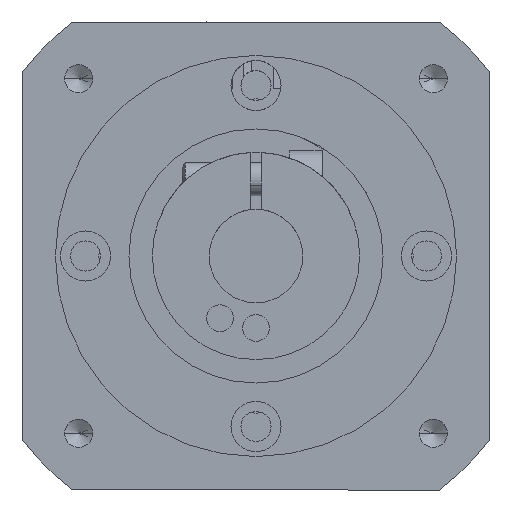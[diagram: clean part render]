
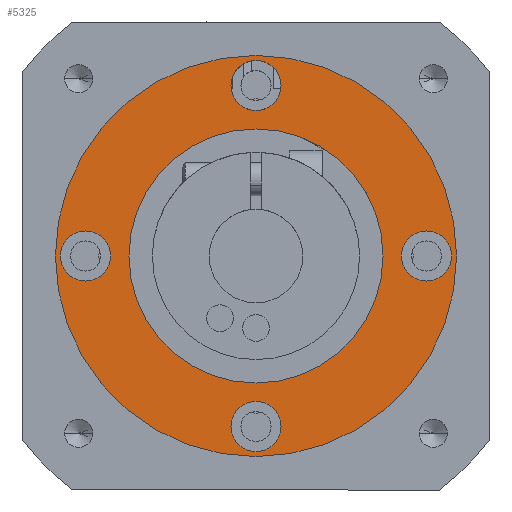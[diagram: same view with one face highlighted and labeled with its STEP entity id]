
A CAD part, front view. The second image highlights one B-rep face of the part: STEP entity #5325.
In plain terms, the highlighted planar face has unit normal (0, -1, 0) as drawn and (0, 0, -1) by its records, which use the part's own axes.
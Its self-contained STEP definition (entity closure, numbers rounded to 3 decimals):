
#7 = EDGE_CURVE ( 'NONE', #29212, #10595, #6347, .T. ) ;
#340 = DIRECTION ( 'NONE',  ( -1., 0., 0. ) ) ;
#444 = VERTEX_POINT ( 'NONE', #10173 ) ;
#850 = EDGE_CURVE ( 'NONE', #9589, #14011, #1555, .T. ) ;
#924 = AXIS2_PLACEMENT_3D ( 'NONE', #30408, #15483, #340 ) ;
#928 = EDGE_LOOP ( 'NONE', ( #10557, #10378 ) ) ;
#1555 = CIRCLE ( 'NONE', #31067, 3.75 ) ;
#1786 = DIRECTION ( 'NONE',  ( -1., 0., 0. ) ) ;
#2060 = DIRECTION ( 'NONE',  ( -1., 0., 0. ) ) ;
#2177 = EDGE_CURVE ( 'NONE', #20895, #21511, #25811, .T. ) ;
#2274 = DIRECTION ( 'NONE',  ( 0., 0., -1. ) ) ;
#2590 = CARTESIAN_POINT ( 'NONE',  ( 0., -19., -17.5 ) ) ;
#2704 = PLANE ( 'NONE',  #23619 ) ;
#3171 = DIRECTION ( 'NONE',  ( -1., 0., 0. ) ) ;
#3182 = DIRECTION ( 'NONE',  ( 0., 0., 1. ) ) ;
#3208 = CARTESIAN_POINT ( 'NONE',  ( 0., -25.5, -17.5 ) ) ;
#3232 = ORIENTED_EDGE ( 'NONE', *, *, #2177, .T. ) ;
#3658 = CARTESIAN_POINT ( 'NONE',  ( 0., 0., -17.5 ) ) ;
#4576 = ORIENTED_EDGE ( 'NONE', *, *, #22175, .T. ) ;
#4933 = DIRECTION ( 'NONE',  ( -1., 0., 0. ) ) ;
#4993 = DIRECTION ( 'NONE',  ( 0., 0., 1. ) ) ;
#5093 = CARTESIAN_POINT ( 'NONE',  ( 25.5, 0., -17.5 ) ) ;
#5325 = ADVANCED_FACE ( 'NONE', ( #8975, #22287, #28084, #21519, #14861, #8167 ), #2704, .T. ) ;
#5997 = DIRECTION ( 'NONE',  ( 0., 0., -1. ) ) ;
#6062 = EDGE_CURVE ( 'NONE', #10997, #14973, #19909, .T. ) ;
#6112 = AXIS2_PLACEMENT_3D ( 'NONE', #23508, #8532, #26002 ) ;
#6201 = DIRECTION ( 'NONE',  ( 1., 0., 0. ) ) ;
#6322 = CARTESIAN_POINT ( 'NONE',  ( 3.75, 25.5, -17.5 ) ) ;
#6347 = CIRCLE ( 'NONE', #28921, 3.75 ) ;
#6439 = CARTESIAN_POINT ( 'NONE',  ( -3.75, 25.5, -17.5 ) ) ;
#7974 = EDGE_CURVE ( 'NONE', #8847, #444, #24880, .T. ) ;
#8167 = FACE_OUTER_BOUND ( 'NONE', #10843, .T. ) ;
#8532 = DIRECTION ( 'NONE',  ( 0., 0., 1. ) ) ;
#8636 = CIRCLE ( 'NONE', #924, 3.75 ) ;
#8847 = VERTEX_POINT ( 'NONE', #29410 ) ;
#8975 = FACE_BOUND ( 'NONE', #12434, .T. ) ;
#8980 = CARTESIAN_POINT ( 'NONE',  ( -30., 0., -17.5 ) ) ;
#9589 = VERTEX_POINT ( 'NONE', #10221 ) ;
#10173 = CARTESIAN_POINT ( 'NONE',  ( 19., 0., -17.5 ) ) ;
#10221 = CARTESIAN_POINT ( 'NONE',  ( -3.75, -25.5, -17.5 ) ) ;
#10378 = ORIENTED_EDGE ( 'NONE', *, *, #31649, .T. ) ;
#10425 = EDGE_CURVE ( 'NONE', #21536, #17062, #20144, .T. ) ;
#10557 = ORIENTED_EDGE ( 'NONE', *, *, #850, .T. ) ;
#10595 = VERTEX_POINT ( 'NONE', #6439 ) ;
#10843 = EDGE_LOOP ( 'NONE', ( #27373, #4576 ) ) ;
#10908 = DIRECTION ( 'NONE',  ( 1., 0., 0. ) ) ;
#10948 = DIRECTION ( 'NONE',  ( 0., 0., 1. ) ) ;
#10952 = CARTESIAN_POINT ( 'NONE',  ( 0., 0., -17.5 ) ) ;
#10997 = VERTEX_POINT ( 'NONE', #11525 ) ;
#11525 = CARTESIAN_POINT ( 'NONE',  ( -21.75, 0., -17.5 ) ) ;
#11869 = ORIENTED_EDGE ( 'NONE', *, *, #24398, .T. ) ;
#12313 = DIRECTION ( 'NONE',  ( 0., 0., 1. ) ) ;
#12434 = EDGE_LOOP ( 'NONE', ( #28104, #26343 ) ) ;
#13185 = DIRECTION ( 'NONE',  ( -1., 0., 0. ) ) ;
#13200 = EDGE_CURVE ( 'NONE', #444, #8847, #23043, .T. ) ;
#13217 = ORIENTED_EDGE ( 'NONE', *, *, #7974, .T. ) ;
#13292 = DIRECTION ( 'NONE',  ( 0., 0., 1. ) ) ;
#13358 = CARTESIAN_POINT ( 'NONE',  ( -25.5, 0., -17.5 ) ) ;
#13445 = CARTESIAN_POINT ( 'NONE',  ( 3.75, -25.5, -17.5 ) ) ;
#13515 = AXIS2_PLACEMENT_3D ( 'NONE', #3658, #21261, #6201 ) ;
#14011 = VERTEX_POINT ( 'NONE', #13445 ) ;
#14279 = CARTESIAN_POINT ( 'NONE',  ( 0., 25.5, -17.5 ) ) ;
#14861 = FACE_BOUND ( 'NONE', #21448, .T. ) ;
#14973 = VERTEX_POINT ( 'NONE', #17891 ) ;
#15385 = AXIS2_PLACEMENT_3D ( 'NONE', #31851, #16864, #1786 ) ;
#15483 = DIRECTION ( 'NONE',  ( 0., 0., 1. ) ) ;
#15540 = CIRCLE ( 'NONE', #15385, 3.75 ) ;
#16341 = AXIS2_PLACEMENT_3D ( 'NONE', #10952, #10948, #10908 ) ;
#16738 = DIRECTION ( 'NONE',  ( -1., 0., 0. ) ) ;
#16846 = AXIS2_PLACEMENT_3D ( 'NONE', #5093, #4993, #4933 ) ;
#16864 = DIRECTION ( 'NONE',  ( 0., 0., 1. ) ) ;
#17062 = VERTEX_POINT ( 'NONE', #8980 ) ;
#17773 = AXIS2_PLACEMENT_3D ( 'NONE', #13358, #13292, #13185 ) ;
#17891 = CARTESIAN_POINT ( 'NONE',  ( -29.25, 0., -17.5 ) ) ;
#19292 = ORIENTED_EDGE ( 'NONE', *, *, #7, .T. ) ;
#19473 = EDGE_CURVE ( 'NONE', #21511, #20895, #8636, .T. ) ;
#19909 = CIRCLE ( 'NONE', #17773, 3.75 ) ;
#19968 = ORIENTED_EDGE ( 'NONE', *, *, #13200, .T. ) ;
#20144 = CIRCLE ( 'NONE', #27039, 30. ) ;
#20895 = VERTEX_POINT ( 'NONE', #23962 ) ;
#21006 = AXIS2_PLACEMENT_3D ( 'NONE', #27210, #12313, #29717 ) ;
#21056 = CARTESIAN_POINT ( 'NONE',  ( 0., 0., -17.5 ) ) ;
#21261 = DIRECTION ( 'NONE',  ( 0., 0., -1. ) ) ;
#21448 = EDGE_LOOP ( 'NONE', ( #19968, #13217 ) ) ;
#21511 = VERTEX_POINT ( 'NONE', #32348 ) ;
#21519 = FACE_BOUND ( 'NONE', #30789, .T. ) ;
#21536 = VERTEX_POINT ( 'NONE', #29775 ) ;
#22175 = EDGE_CURVE ( 'NONE', #17062, #21536, #28144, .T. ) ;
#22287 = FACE_BOUND ( 'NONE', #928, .T. ) ;
#22857 = CIRCLE ( 'NONE', #21006, 3.75 ) ;
#23043 = CIRCLE ( 'NONE', #6112, 19. ) ;
#23508 = CARTESIAN_POINT ( 'NONE',  ( 0., 0., -17.5 ) ) ;
#23538 = DIRECTION ( 'NONE',  ( 1., 0., 0. ) ) ;
#23619 = AXIS2_PLACEMENT_3D ( 'NONE', #2590, #2274, #2060 ) ;
#23962 = CARTESIAN_POINT ( 'NONE',  ( 29.25, 0., -17.5 ) ) ;
#24398 = EDGE_CURVE ( 'NONE', #10595, #29212, #29595, .T. ) ;
#24516 = EDGE_LOOP ( 'NONE', ( #29224, #3232 ) ) ;
#24880 = CIRCLE ( 'NONE', #16341, 19. ) ;
#25811 = CIRCLE ( 'NONE', #16846, 3.75 ) ;
#26002 = DIRECTION ( 'NONE',  ( 1., 0., 0. ) ) ;
#26343 = ORIENTED_EDGE ( 'NONE', *, *, #6062, .T. ) ;
#26735 = EDGE_CURVE ( 'NONE', #14973, #10997, #22857, .T. ) ;
#27039 = AXIS2_PLACEMENT_3D ( 'NONE', #21056, #5997, #23538 ) ;
#27210 = CARTESIAN_POINT ( 'NONE',  ( -25.5, 0., -17.5 ) ) ;
#27373 = ORIENTED_EDGE ( 'NONE', *, *, #10425, .T. ) ;
#28084 = FACE_BOUND ( 'NONE', #24516, .T. ) ;
#28104 = ORIENTED_EDGE ( 'NONE', *, *, #26735, .T. ) ;
#28144 = CIRCLE ( 'NONE', #13515, 30. ) ;
#28921 = AXIS2_PLACEMENT_3D ( 'NONE', #29253, #29260, #29295 ) ;
#29212 = VERTEX_POINT ( 'NONE', #6322 ) ;
#29224 = ORIENTED_EDGE ( 'NONE', *, *, #19473, .T. ) ;
#29253 = CARTESIAN_POINT ( 'NONE',  ( 0., 25.5, -17.5 ) ) ;
#29260 = DIRECTION ( 'NONE',  ( 0., 0., 1. ) ) ;
#29295 = DIRECTION ( 'NONE',  ( -1., 0., 0. ) ) ;
#29410 = CARTESIAN_POINT ( 'NONE',  ( -19., 0., -17.5 ) ) ;
#29595 = CIRCLE ( 'NONE', #32055, 3.75 ) ;
#29717 = DIRECTION ( 'NONE',  ( -1., 0., 0. ) ) ;
#29775 = CARTESIAN_POINT ( 'NONE',  ( 30., 0., -17.5 ) ) ;
#30408 = CARTESIAN_POINT ( 'NONE',  ( 25.5, 0., -17.5 ) ) ;
#30789 = EDGE_LOOP ( 'NONE', ( #11869, #19292 ) ) ;
#31067 = AXIS2_PLACEMENT_3D ( 'NONE', #3208, #3182, #3171 ) ;
#31649 = EDGE_CURVE ( 'NONE', #14011, #9589, #15540, .T. ) ;
#31724 = DIRECTION ( 'NONE',  ( 0., 0., 1. ) ) ;
#31851 = CARTESIAN_POINT ( 'NONE',  ( 0., -25.5, -17.5 ) ) ;
#32055 = AXIS2_PLACEMENT_3D ( 'NONE', #14279, #31724, #16738 ) ;
#32348 = CARTESIAN_POINT ( 'NONE',  ( 21.75, 0., -17.5 ) ) ;
